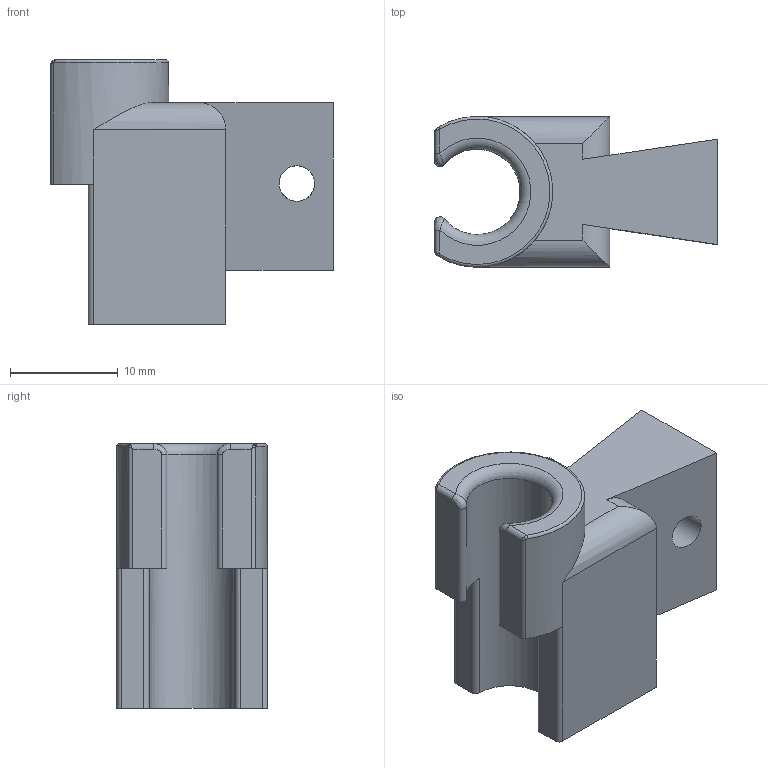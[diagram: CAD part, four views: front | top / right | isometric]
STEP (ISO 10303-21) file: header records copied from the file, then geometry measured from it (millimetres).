
FILE_DESCRIPTION(/* description */ (''),/* implementation_level */ '2;1');
FILE_NAME(/* name */ '/Users/admin/Downloads/hercules-dial-holder-1.2.step',/* time_stamp */ '2021-06-06T13:09:09+02:00',/* author */ (''),/* organization */ (''),/* preprocessor_version */ 'ST-DEVELOPER v18.1',/* originating_system */ 'Autodesk Translation Framework v9.7.0.1280',/* authorisation */ '');
FILE_SCHEMA (('AUTOMOTIVE_DESIGN { 1 0 10303 214 3 1 1 }'));
Length unit declared in the file: millimetre
Products named in the file (1): hercules-carriage-1.7-19.20
Bounding box: 26.27 x 14 x 24.57 mm (x, y, z)
Volume: 4755.6 mm3; surface area: 2463.3 mm2
Topology: 1 solids, 1 shells, 41 faces, 107 edges, 66 vertices
Faces by surface type: cylinder 17, plane 16, bspline 6, torus 2
Full cylindrical faces by diameter (mm): 3.3 x1
Entity records: 1661 total; most frequent: CARTESIAN_POINT 457, ORIENTED_EDGE 210, DIRECTION 207, EDGE_CURVE 105, AXIS2_PLACEMENT_3D 76, VERTEX_POINT 66, LINE 55, VECTOR 55
